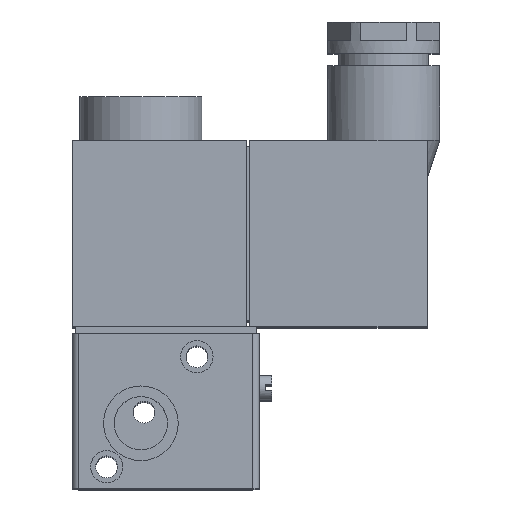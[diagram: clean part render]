
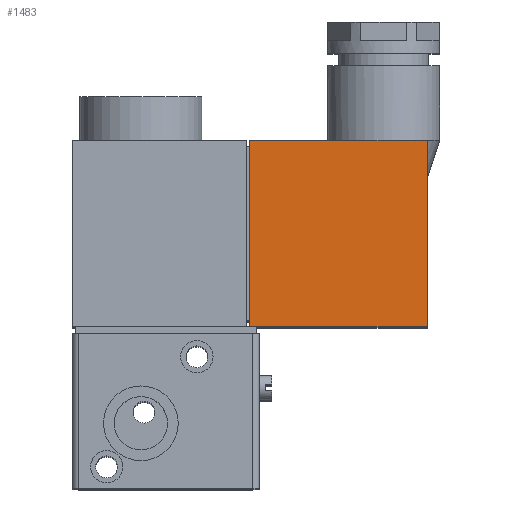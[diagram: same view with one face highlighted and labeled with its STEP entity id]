
A CAD part, top view. The second image highlights one B-rep face of the part: STEP entity #1483.
In plain terms, the highlighted planar face has unit normal (0, 0, 1).
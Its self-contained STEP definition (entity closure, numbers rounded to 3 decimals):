
#187=FACE_OUTER_BOUND('',#300,.T.);
#300=EDGE_LOOP('',(#1242,#1243,#1244,#1245));
#386=LINE('',#2472,#507);
#416=LINE('',#2536,#537);
#418=LINE('',#2542,#539);
#419=LINE('',#2544,#540);
#507=VECTOR('',#2022,1000.);
#537=VECTOR('',#2076,1000.);
#539=VECTOR('',#2084,1000.);
#540=VECTOR('',#2087,1000.);
#716=VERTEX_POINT('',#2469);
#717=VERTEX_POINT('',#2471);
#737=VERTEX_POINT('',#2530);
#739=VERTEX_POINT('',#2534);
#880=EDGE_CURVE('',#716,#717,#386,.T.);
#911=EDGE_CURVE('',#737,#739,#416,.T.);
#915=EDGE_CURVE('',#716,#737,#418,.T.);
#916=EDGE_CURVE('',#717,#739,#419,.T.);
#1242=ORIENTED_EDGE('',*,*,#911,.T.);
#1243=ORIENTED_EDGE('',*,*,#916,.F.);
#1244=ORIENTED_EDGE('',*,*,#880,.F.);
#1245=ORIENTED_EDGE('',*,*,#915,.T.);
#1399=PLANE('',#1698);
#1483=ADVANCED_FACE('',(#187),#1399,.F.);
#1698=AXIS2_PLACEMENT_3D('',#2543,#2085,#2086);
#2022=DIRECTION('',(0.,-1.,0.));
#2076=DIRECTION('',(0.,-1.,0.));
#2084=DIRECTION('',(-1.,0.,0.));
#2085=DIRECTION('center_axis',(0.,0.,-1.));
#2086=DIRECTION('ref_axis',(-1.,0.,0.));
#2087=DIRECTION('',(-1.,0.,0.));
#2469=CARTESIAN_POINT('',(57.,30.,22.));
#2471=CARTESIAN_POINT('',(57.,0.,22.));
#2472=CARTESIAN_POINT('',(57.,30.,22.));
#2530=CARTESIAN_POINT('',(28.5,30.,22.));
#2534=CARTESIAN_POINT('',(28.5,0.,22.));
#2536=CARTESIAN_POINT('',(28.5,30.,22.));
#2542=CARTESIAN_POINT('',(57.,30.,22.));
#2543=CARTESIAN_POINT('Origin',(57.,30.,22.));
#2544=CARTESIAN_POINT('',(57.,0.,22.));
